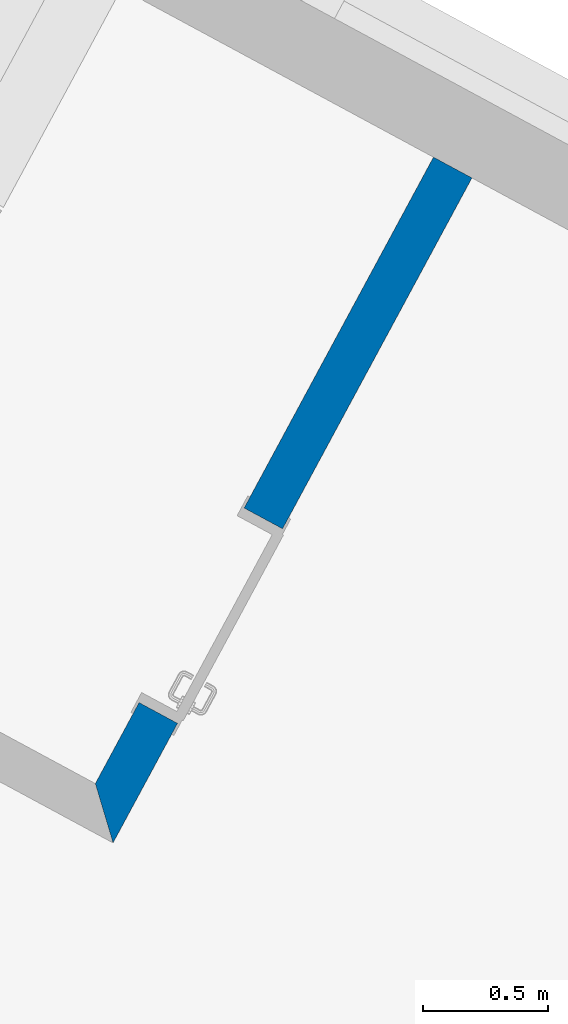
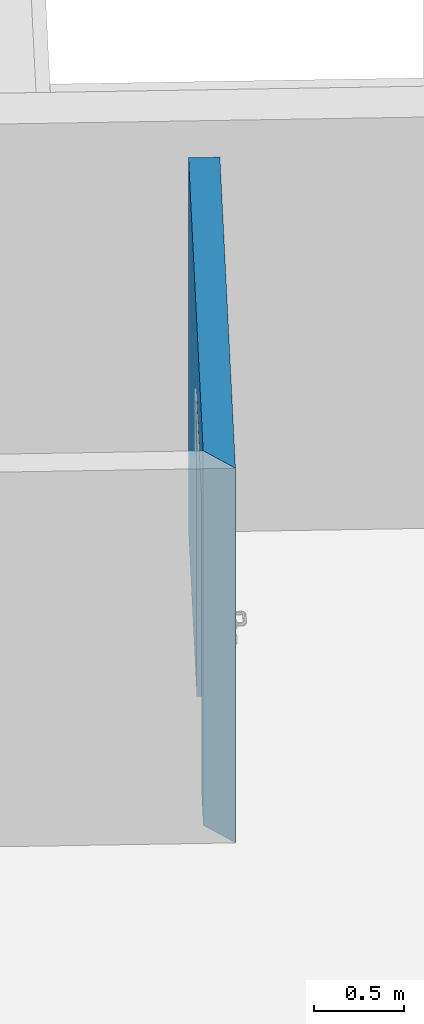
# One storey, part 4 of 8: 1 wall, 1 opening.
"""IFC2X3 building model written with IfcOpenShell, lengths in metres."""

import ifcopenshell
import ifcopenshell.guid

model = None  # the IFC model being written
_history = None  # IfcOwnerHistory: only IFC2X3 demands one
_inside = {}  # id of a spatial element -> (the spatial element, [elements in it])
_under = {}  # id of a project, library or spatial element -> (it, [spatial elements below it])
_declared = {}  # id of a project -> (the project, [libraries it declares])
_typed = {}  # id of a type object -> (the type object, [elements of that type])
_made_of = {}  # id of a material, layer set ... -> (it, [elements and type objects made of it])


def new_model(schema):
    """Start an empty IFC model of exactly this schema.

    Asked for "IFC4X3", IfcOpenShell would pick the latest addendum, in which some entities
    have other attributes; the version numbers below select the first issue.
    IFC2X3 requires an IfcOwnerHistory on every rooted entity: one is made here for all.
    """
    global model, _history
    if schema == "IFC4X3":
        model = ifcopenshell.file(schema_version=(4, 3, 0, 0))
    else:
        model = ifcopenshell.file(schema=schema)
    _inside.clear()
    _under.clear()
    _declared.clear()
    _typed.clear()
    _made_of.clear()
    _history = None
    if model.schema == "IFC2X3":
        org = make("IfcOrganization", Name="unknown")
        user = make(
            "IfcPersonAndOrganization",
            ThePerson=make("IfcPerson", FamilyName="unknown"),
            TheOrganization=org,
        )
        app = make(
            "IfcApplication",
            ApplicationDeveloper=org,
            Version="unknown",
            ApplicationFullName="unknown",
            ApplicationIdentifier="unknown",
        )
        _history = make(
            "IfcOwnerHistory",
            OwningUser=user,
            OwningApplication=app,
            ChangeAction="ADDED",
            CreationDate=0,
        )
    return model


def make(cls, **values):
    """One entity of the class cls with the attributes given. An attribute that is None is left unset."""
    return model.create_entity(
        cls, **{name: value for name, value in values.items() if value is not None}
    )


def entity(cls, *values):
    """Any entity or typed value of the class cls, its attributes in the order of the schema. None: left unset."""
    e = model.create_entity(cls)
    for i, value in enumerate(values):
        if value is not None:
            e[i] = value
    return e


def rooted(cls, **values):
    """An entity with a GlobalId (a new one), such as an element, a storey or a relation."""
    return make(cls, GlobalId=ifcopenshell.guid.new(), OwnerHistory=_history, **values)


def si_unit(unit_type, name, prefix=None):
    """IfcSIUnit, for example si_unit("LENGTHUNIT", "METRE", prefix="MILLI")."""
    return make("IfcSIUnit", UnitType=unit_type, Prefix=prefix, Name=name)


def converted_unit(unit_type, name, factor, base, dimensions=None, offset=None):
    """IfcConversionBasedUnit, such as the inch: factor (a typed value) times the base unit."""
    return make(
        "IfcConversionBasedUnit"
        if offset is None
        else "IfcConversionBasedUnitWithOffset",
        ConversionOffset=offset,
        Dimensions=None
        if dimensions is None
        else entity("IfcDimensionalExponents", *dimensions),
        UnitType=unit_type,
        Name=name,
        ConversionFactor=make(
            "IfcMeasureWithUnit", ValueComponent=factor, UnitComponent=base
        ),
    )


def derived_unit(unit_type, elements):
    """IfcDerivedUnit: a product of units, each with its exponent."""
    return make(
        "IfcDerivedUnit",
        Elements=[
            make("IfcDerivedUnitElement", Unit=unit, Exponent=power)
            for unit, power in elements
        ],
        UnitType=unit_type,
    )


def money_unit(currency):
    """IfcMonetaryUnit."""
    return make("IfcMonetaryUnit", Currency=currency)


def assignment(units):
    """IfcUnitAssignment: the units of a project."""
    return None if units is None else make("IfcUnitAssignment", Units=units)


def point(xyz):
    """IfcCartesianPoint."""
    return None if xyz is None else make("IfcCartesianPoint", Coordinates=xyz)


def direction(xyz):
    """IfcDirection."""
    return None if xyz is None else make("IfcDirection", DirectionRatios=xyz)


def frame(location, z_axis=None, x_axis=None):
    """IfcAxis2Placement3D, a coordinate frame: its origin and axes. An axis left out is left unset."""
    return make(
        "IfcAxis2Placement3D",
        Location=point(location),
        Axis=direction(z_axis),
        RefDirection=direction(x_axis),
    )


def frame_2d(location, x_axis=None):
    """IfcAxis2Placement2D, a coordinate frame in the plane: its origin and x axis."""
    return make(
        "IfcAxis2Placement2D", Location=point(location), RefDirection=direction(x_axis)
    )


def origin_with_axes():
    """The frame at (0, 0, 0) with the z axis (0, 0, 1) and the x axis (1, 0, 0) written out."""
    return frame((0.0, 0.0, 0.0), z_axis=(0.0, 0.0, 1.0), x_axis=(1.0, 0.0, 0.0))


def origin_2d_with_axis():
    """The frame at (0, 0) in the plane with the x axis (1, 0) written out."""
    return frame_2d((0.0, 0.0), x_axis=(1.0, 0.0))


def place(relative_to, where):
    """IfcLocalPlacement: puts the frame where relative to a parent placement (None: the world)."""
    return make(
        "IfcLocalPlacement", PlacementRelTo=relative_to, RelativePlacement=where
    )


def context(
    kind, dimensions, precision=None, world=None, true_north=None, identifier=None
):
    """IfcGeometricRepresentationContext, for example the 3D "Model" context."""
    return make(
        "IfcGeometricRepresentationContext",
        ContextIdentifier=identifier,
        ContextType=kind,
        CoordinateSpaceDimension=dimensions,
        Precision=precision,
        WorldCoordinateSystem=world,
        TrueNorth=true_north,
    )


def subcontext(parent, identifier, kind, view, scale=None):
    """IfcGeometricRepresentationSubContext, for example "Body" below "Model"."""
    return make(
        "IfcGeometricRepresentationSubContext",
        ContextIdentifier=identifier,
        ContextType=kind,
        ParentContext=parent,
        TargetScale=scale,
        TargetView=view,
    )


def project(units=None, contexts=None):
    """IfcProject with its units and contexts."""
    return rooted(
        "IfcProject",
        Name="project",
        RepresentationContexts=contexts,
        UnitsInContext=assignment(units),
    )


def spatial(cls, under=None, at=None, **own):
    """A site, building, storey or space (cls), placed at a placement, below another one or the project."""
    s = rooted(cls, ObjectPlacement=at, **own)
    if under is not None:
        _under.setdefault(under.id(), (under, []))[1].append(s)
    return s


def polyline(points):
    """IfcPolyline through the points."""
    return make("IfcPolyline", Points=[point(p) for p in points])


def profile(cls, at=None, kind="AREA", **sizes):
    """A parametric profile (cls). Its sizes go by their IFC names, for example OverallWidth=200.0."""
    return make(cls, ProfileType=kind, Position=at, **sizes)


def rectangle(**sizes):
    """IfcRectangleProfileDef."""
    return profile("IfcRectangleProfileDef", **sizes)


def outline(outer, holes=None, kind="AREA"):
    """IfcArbitraryClosedProfileDef: a profile drawn as a closed curve; with holes, ...WithVoids."""
    if holes is None:
        return make("IfcArbitraryClosedProfileDef", ProfileType=kind, OuterCurve=outer)
    return make(
        "IfcArbitraryProfileDefWithVoids",
        ProfileType=kind,
        OuterCurve=outer,
        InnerCurves=holes,
    )


def extrude(swept, where, along, depth):
    """IfcExtrudedAreaSolid: the profile swept, set in the frame where, extruded along a direction by depth."""
    return make(
        "IfcExtrudedAreaSolid",
        SweptArea=swept,
        Position=where,
        ExtrudedDirection=direction(along),
        Depth=depth,
    )


def shape(context_of_items, identifier, shape_type, items):
    """IfcShapeRepresentation: the items that make up one representation, for example the "Body"."""
    return make(
        "IfcShapeRepresentation",
        ContextOfItems=context_of_items,
        RepresentationIdentifier=identifier,
        RepresentationType=shape_type,
        Items=items,
    )


def material(Name=None, Category=None):
    """IfcMaterial."""
    return make("IfcMaterial", Name=Name, Category=Category)


def layer(
    of_material, thickness, ventilated=None, Name=None, Category=None, Priority=None
):
    """IfcMaterialLayer: one layer of a wall or slab, of a material (None: an air gap)."""
    return make(
        "IfcMaterialLayer",
        Material=of_material,
        LayerThickness=thickness,
        IsVentilated=ventilated,
        Name=Name,
        Category=Category,
        Priority=Priority,
    )


def layer_set(layers, Name=None):
    """IfcMaterialLayerSet."""
    return make("IfcMaterialLayerSet", MaterialLayers=layers, LayerSetName=Name)


def layer_usage(for_layer_set, set_direction, sense, offset, extent=None):
    """IfcMaterialLayerSetUsage: how a layer set lies in its element."""
    return make(
        "IfcMaterialLayerSetUsage",
        ForLayerSet=for_layer_set,
        LayerSetDirection=set_direction,
        DirectionSense=sense,
        OffsetFromReferenceLine=offset,
        ReferenceExtent=extent,
    )


def made_of(thing, what):
    """Note that an element or type object is made of a material, layer set ...; save() writes the relation."""
    if what is not None:
        _made_of.setdefault(what.id(), (what, []))[1].append(thing)
    return thing


def type_object(cls, material=None, **own):
    """A type object (cls), such as IfcWallType, which elements share."""
    return made_of(rooted(cls, **own), material)


def element(
    cls,
    number,
    at=None,
    inside=None,
    cuts=None,
    type_object=None,
    material=None,
    context=None,
    identifier="Body",
    shape_type=None,
    held_by="IfcProductDefinitionShape",
    body=None,
    shapes=None,
    **own,
):
    """One element of the class cls, such as IfcWall. Its Tag is "e" and its number.

    at: its placement. inside: the storey or other place that contains it. cuts: it is an
    opening in that element (IfcRelVoidsElement). A single representation is given by context,
    identifier, shape_type and body (its items); several are given by shapes. held_by: the class
    of the entity that holds the representations. save() writes the other relations.
    """
    e = rooted(cls, Tag="e%d" % number, ObjectPlacement=at, **own)
    if body is not None:
        shapes = [shape(context, identifier, shape_type, body)]
    if shapes is not None:
        e.Representation = make(held_by, Representations=shapes)
    if inside is not None:
        _inside.setdefault(inside.id(), (inside, []))[1].append(e)
    if cuts is not None:
        rooted(
            "IfcRelVoidsElement", RelatingBuildingElement=cuts, RelatedOpeningElement=e
        )
    if type_object is not None:
        _typed.setdefault(type_object.id(), (type_object, []))[1].append(e)
    return made_of(e, material)


def aggregate(whole, parts):
    """IfcRelAggregates: a whole, such as a stair, and the parts it consists of."""
    return rooted("IfcRelAggregates", RelatingObject=whole, RelatedObjects=parts)


def save(model, path):
    """Write the relations noted so far, then the file.

    IfcRelAggregates (storeys below a building ...), IfcRelContainedInSpatialStructure (elements
    in a storey), IfcRelDefinesByType, IfcRelAssociatesMaterial and IfcRelDeclares: one each for
    every whole, place, type object, material and project.
    """
    for whole, parts in _under.values():
        aggregate(whole, parts)
    for where, things in _inside.values():
        rooted(
            "IfcRelContainedInSpatialStructure",
            RelatedElements=things,
            RelatingStructure=where,
        )
    for kind, things in _typed.values():
        rooted("IfcRelDefinesByType", RelatedObjects=things, RelatingType=kind)
    for what, things in _made_of.values():
        rooted("IfcRelAssociatesMaterial", RelatedObjects=things, RelatingMaterial=what)
    for by, libraries in _declared.values():
        rooted("IfcRelDeclares", RelatingContext=by, RelatedDefinitions=libraries)
    model.write(path)


model = new_model("IFC2X3")

# Units and contexts
model_context = context("Model", 3, precision=1e-05, world=origin_with_axes(), true_north=direction((0.0, 1.0)))
body_context = subcontext(model_context, "Body", "Model", "MODEL_VIEW")
ifc_project = project(units=[si_unit("LENGTHUNIT", "METRE"), si_unit("AREAUNIT", "SQUARE_METRE"), si_unit("VOLUMEUNIT", "CUBIC_METRE"), converted_unit("PLANEANGLEUNIT", "DEGREE", entity("IfcPlaneAngleMeasure", 0.0174532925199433), si_unit("PLANEANGLEUNIT", "RADIAN"), dimensions=[0, 0, 0, 0, 0, 0, 0]), money_unit("EUR"), converted_unit("TIMEUNIT", "Year", entity("IfcTimeMeasure", 31556926.0), si_unit("TIMEUNIT", "SECOND"), dimensions=[0, 0, 1, 0, 0, 0, 0]), si_unit("MASSUNIT", "GRAM", prefix="KILO"), si_unit("THERMODYNAMICTEMPERATUREUNIT", "DEGREE_CELSIUS"), si_unit("LUMINOUSINTENSITYUNIT", "LUMEN"), si_unit("ENERGYUNIT", "JOULE", prefix="MEGA"), derived_unit("THERMALCONDUCTANCEUNIT", [(si_unit("POWERUNIT", "WATT"), 1), (si_unit("LENGTHUNIT", "METRE"), -1), (si_unit("THERMODYNAMICTEMPERATUREUNIT", "KELVIN"), -1)]), derived_unit("SPECIFICHEATCAPACITYUNIT", [(si_unit("ENERGYUNIT", "JOULE"), 1), (si_unit("MASSUNIT", "GRAM", prefix="KILO"), -1), (si_unit("THERMODYNAMICTEMPERATUREUNIT", "KELVIN"), -1)]), derived_unit("MASSDENSITYUNIT", [(si_unit("MASSUNIT", "GRAM", prefix="KILO"), 1), (si_unit("VOLUMEUNIT", "CUBIC_METRE"), -1)])], contexts=[model_context])

# Site, building, storey
site_placement = place(None, frame((-3.949935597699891, 1.740105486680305, 0.0), z_axis=(0.0, 0.0, 1.0), x_axis=(0.8799804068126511, -0.475009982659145, 0.0)))
site = spatial("IfcSite", under=ifc_project, at=site_placement, Name="Gelände", CompositionType="ELEMENT")
building_placement = place(site_placement, origin_with_axes())
building = spatial("IfcBuilding", under=site, at=building_placement, Name="Gebäude", CompositionType="ELEMENT")
storey_placement = place(building_placement, frame((0.0, 0.0, -2.98), z_axis=(0.0, 0.0, 1.0), x_axis=(1.0, 0.0, 0.0)))
storey = spatial("IfcBuildingStorey", under=building, at=storey_placement, Name="Kellergeschoss", CompositionType="ELEMENT", Elevation=-2.98)

# Wall, opening
ifc_material = material(Name="_SIWH - MW Kalksandstein")
ifc_layer = layer(ifc_material, 0.175, ventilated="UNKNOWN")
ifc_layer_set = layer_set([ifc_layer], Name="_SIWH - WI | KS 17,5 | 17,5cm")
ifc_layer_usage = layer_usage(ifc_layer_set, "AXIS2", "POSITIVE", 0.0)
wall_type = type_object("IfcWallType", Name="_SIWH - WI | KS 17,5 | 17,5cm 175", PredefinedType="NOTDEFINED")
wall_placement = place(storey_placement, frame((11.76739416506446, 19.20032037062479, 0.0), z_axis=(0.0, 0.0, 1.0), x_axis=(4.657984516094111e-06, -0.9999999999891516, 0.0)))
wall = element("IfcWallStandardCase", 1, at=wall_placement, inside=storey, type_object=wall_type, material=ifc_layer_usage, Name="I-Wand023", ObjectType="NOTDEFINED", context=body_context, shape_type="SweptSolid", body=[
    extrude(outline(polyline([(0.3000000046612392, 0.0), (3.150623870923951, 0.0), (3.325624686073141, 0.1750000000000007), (0.3000008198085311, 0.1750000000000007), (0.3000000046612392, 0.0)])), origin_with_axes(), (0.0, 0.0, 1.0), 2.55),
])
opening_placement = place(wall_placement, frame((2.339193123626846, 0.0, 0.0), z_axis=(0.0, 0.0, 1.0), x_axis=(1.0, 0.0, 0.0)))
element("IfcOpeningElement", 2, at=opening_placement, cuts=wall, Name="I-Wand045", context=body_context, shape_type="SweptSolid", body=[
    extrude(rectangle(XDim=0.8850000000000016, YDim=2.01, at=origin_2d_with_axis()), frame((0.0, -0.1750000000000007, 1.005), z_axis=(0.0, -1.0, 0.0), x_axis=(-1.0, 0.0, 0.0)), (0.0, 0.0, -1.0), 0.5249999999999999),
])

save(model, "model.ifc")
